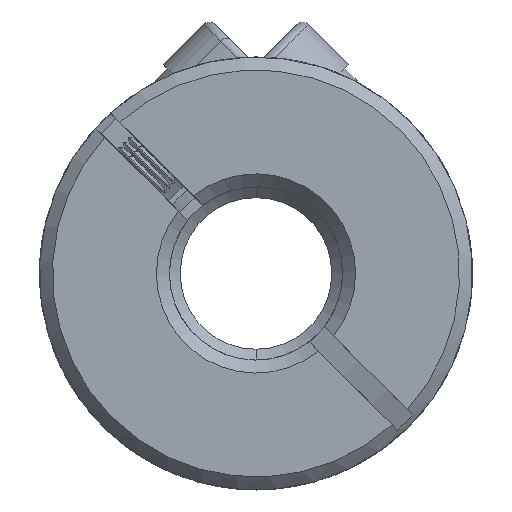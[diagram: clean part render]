
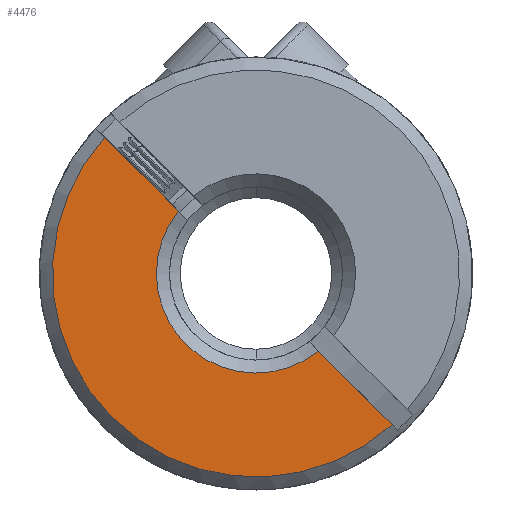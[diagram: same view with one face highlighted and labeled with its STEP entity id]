
A CAD part, front view. The second image highlights one B-rep face of the part: STEP entity #4476.
In plain terms, the highlighted planar face has unit normal (0, -1, 0).
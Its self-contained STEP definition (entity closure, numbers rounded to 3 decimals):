
#736 = PLANE ( 'NONE',  #7948 ) ;
#740 = VERTEX_POINT ( 'NONE', #8349 ) ;
#1200 = EDGE_CURVE ( 'NONE', #6765, #2026, #11138, .T. ) ;
#1706 = CARTESIAN_POINT ( 'NONE',  ( -3.587, -11.2, 2.88 ) ) ;
#1875 = CARTESIAN_POINT ( 'NONE',  ( 45.083, -11.2, 25.627 ) ) ;
#2026 = VERTEX_POINT ( 'NONE', #13570 ) ;
#2187 = DIRECTION ( 'NONE',  ( -0.707, 0., 0.707 ) ) ;
#4476 = ADVANCED_FACE ( 'NONE', ( #10887 ), #736, .T. ) ;
#4524 = CARTESIAN_POINT ( 'NONE',  ( 0.205, -11.2, -0.912 ) ) ;
#4930 = VERTEX_POINT ( 'NONE', #1706 ) ;
#5354 = ORIENTED_EDGE ( 'NONE', *, *, #1200, .T. ) ;
#5456 = VECTOR ( 'NONE', #6804, 1000. ) ;
#5519 = EDGE_CURVE ( 'NONE', #4930, #6765, #7414, .T. ) ;
#5584 = VECTOR ( 'NONE', #2187, 1000. ) ;
#6359 = DIRECTION ( 'NONE',  ( -0.707, 0., 0.707 ) ) ;
#6765 = VERTEX_POINT ( 'NONE', #13568 ) ;
#6804 = DIRECTION ( 'NONE',  ( -0.707, 0., 0.707 ) ) ;
#7414 = LINE ( 'NONE', #4524, #5584 ) ;
#7515 = AXIS2_PLACEMENT_3D ( 'NONE', #9361, #8184, #9409 ) ;
#7692 = DIRECTION ( 'NONE',  ( 0., 1., 0. ) ) ;
#7830 = CIRCLE ( 'NONE', #11594, 4.6 ) ;
#7948 = AXIS2_PLACEMENT_3D ( 'NONE', #1875, #10031, #11181 ) ;
#8184 = DIRECTION ( 'NONE',  ( 0., -1., 0. ) ) ;
#8349 = CARTESIAN_POINT ( 'NONE',  ( 2.88, -11.2, -3.587 ) ) ;
#9231 = EDGE_CURVE ( 'NONE', #2026, #740, #11817, .T. ) ;
#9361 = CARTESIAN_POINT ( 'NONE',  ( 0., -11.2, 0. ) ) ;
#9409 = DIRECTION ( 'NONE',  ( -0.707, 0., 0.707 ) ) ;
#9667 = EDGE_CURVE ( 'NONE', #740, #4930, #7830, .T. ) ;
#10031 = DIRECTION ( 'NONE',  ( 0., -1., 0. ) ) ;
#10764 = ORIENTED_EDGE ( 'NONE', *, *, #9231, .T. ) ;
#10811 = ORIENTED_EDGE ( 'NONE', *, *, #9667, .T. ) ;
#10887 = FACE_OUTER_BOUND ( 'NONE', #14498, .T. ) ;
#11102 = ORIENTED_EDGE ( 'NONE', *, *, #5519, .T. ) ;
#11138 = CIRCLE ( 'NONE', #7515, 9.4 ) ;
#11181 = DIRECTION ( 'NONE',  ( -0.707, 0., 0.707 ) ) ;
#11594 = AXIS2_PLACEMENT_3D ( 'NONE', #12083, #7692, #6359 ) ;
#11817 = LINE ( 'NONE', #13723, #5456 ) ;
#12083 = CARTESIAN_POINT ( 'NONE',  ( 0., -11.2, 0. ) ) ;
#13568 = CARTESIAN_POINT ( 'NONE',  ( -6.991, -11.2, 6.284 ) ) ;
#13570 = CARTESIAN_POINT ( 'NONE',  ( 6.284, -11.2, -6.991 ) ) ;
#13723 = CARTESIAN_POINT ( 'NONE',  ( -8.839, -11.2, 8.132 ) ) ;
#14498 = EDGE_LOOP ( 'NONE', ( #11102, #5354, #10764, #10811 ) ) ;
